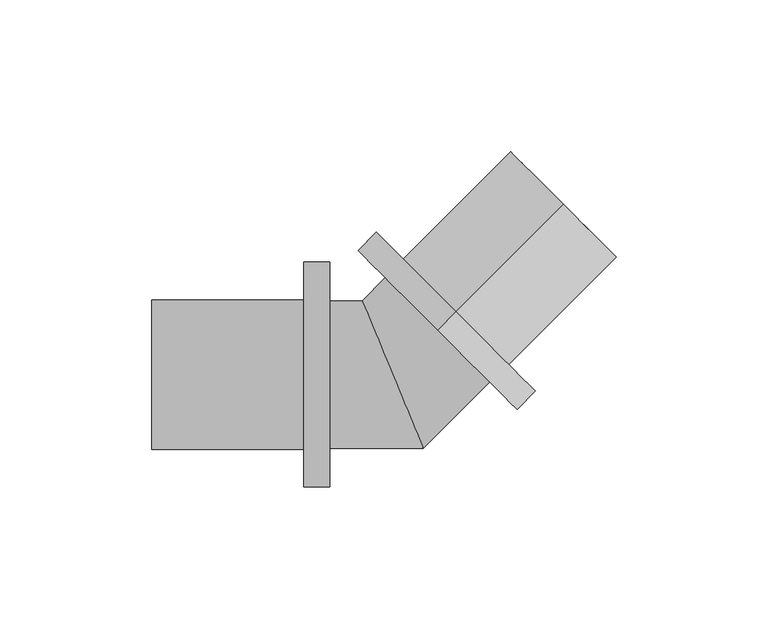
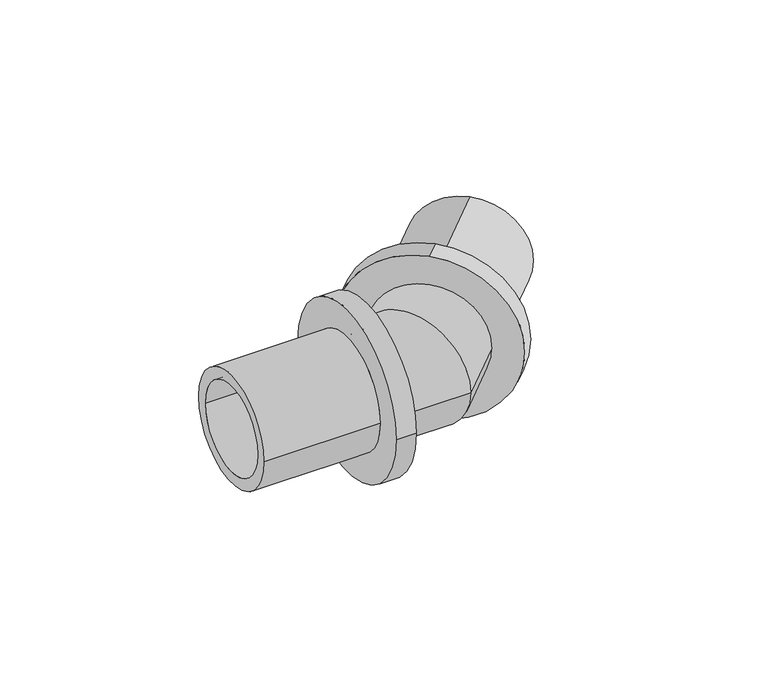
"""IFC4 building model written with IfcOpenShell, lengths in millimetres: pipe fitting geometry, RAUTITAN_Corner_LX : RTI LX C DN."""

from ifc_helpers import new_model, si_unit, frame, origin, place, context, project, spatial, polyline, circle_curve, ellipse_curve, source, transform, mapped, element, save
from ifc_brep_helpers import plane_surface, cylinder_surface, revolved_surface, advanced_brep


def pipe_fitting_77dd6fd6(model_context):
    return source(origin(), model_context, "Body", "AdvancedBrep", [
        advanced_brep(
        [(20.7182287, 20.7182287, 37.0), (20.7182287, 20.7182287, -37.0), (14.707821, 14.707821, -37.0), (14.707821, 14.707821, 37.0), (56.0735677, 56.0735677, 24.6), (56.0735677, 56.0735677, -24.6), (20.7182287, 20.7182287, -24.6), (20.7182287, 20.7182287, 24.6), (14.707821, 14.707821, 19.5), (14.707821, 14.707821, -19.5), (56.0735677, 56.0735677, -19.5), (56.0735677, 56.0735677, 19.5)],
        [
            (0, 1, circle_curve(frame((20.7182287, 20.7182287, 0.0), z_axis=(-0.7071067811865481, -0.707106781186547, 0.0), x_axis=(0.0, 0.0, -1.0)), 37.0)),
            (1, 2),
            (2, 3, circle_curve(frame((14.707821, 14.707821, 0.0), z_axis=(0.7071067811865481, 0.707106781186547, 0.0), x_axis=(0.0, 0.0, -1.0)), 37.0)),
            (3, 0),
            (4, 5, circle_curve(frame((56.0735677, 56.0735677, 0.0), z_axis=(-0.7071067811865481, -0.707106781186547, 0.0), x_axis=(0.0, 0.0, -1.0)), 24.6)),
            (5, 6),
            (6, 7, circle_curve(frame((20.7182287, 20.7182287, 0.0), z_axis=(0.7071067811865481, 0.707106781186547, 0.0), x_axis=(0.0, 0.0, -1.0)), 24.6)),
            (7, 4),
            (8, 9, circle_curve(frame((14.707821, 14.707821, 0.0), z_axis=(-0.7071067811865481, -0.707106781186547, 0.0), x_axis=(0.0, 0.0, -1.0)), 19.5)),
            (9, 10),
            (10, 11, circle_curve(frame((56.0735677, 56.0735677, 0.0), z_axis=(0.7071067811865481, 0.707106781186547, 0.0), x_axis=(0.0, 0.0, -1.0)), 19.5)),
            (11, 8),
            (1, 0, circle_curve(frame((20.7182287, 20.7182287, 0.0), z_axis=(-0.7071067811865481, -0.707106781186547, 0.0), x_axis=(0.0, 0.0, 1.0)), 37.0)),
            (3, 2, circle_curve(frame((14.707821, 14.707821, 0.0), z_axis=(0.7071067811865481, 0.707106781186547, 0.0), x_axis=(0.0, 0.0, 1.0)), 37.0)),
            (6, 7, circle_curve(frame((20.7182287, 20.7182287, 0.0), z_axis=(-0.7071067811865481, -0.707106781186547, 0.0), x_axis=(0.0, 0.0, 1.0)), 24.6)),
            (5, 4, circle_curve(frame((56.0735677, 56.0735677, 0.0), z_axis=(-0.7071067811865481, -0.707106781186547, 0.0), x_axis=(0.0, 0.0, 1.0)), 24.6)),
            (10, 11, circle_curve(frame((56.0735677, 56.0735677, 0.0), z_axis=(-0.7071067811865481, -0.707106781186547, 0.0), x_axis=(0.0, 0.0, 1.0)), 19.5)),
            (9, 8, circle_curve(frame((14.707821, 14.707821, 0.0), z_axis=(-0.7071067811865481, -0.707106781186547, 0.0), x_axis=(0.0, 0.0, 1.0)), 19.5)),
        ],
        [
            cylinder_surface(frame((14.707821, 14.707821, 0.0), z_axis=(0.7071067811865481, 0.707106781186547, 0.0), x_axis=(0.0, 0.0, -1.0)), 37.0),
            cylinder_surface(frame((14.707821, 14.707821, 0.0), z_axis=(0.7071067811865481, 0.707106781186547, 0.0), x_axis=(0.0, 0.0, -1.0)), 24.6),
            revolved_surface(polyline([(56.07356770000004, 56.073567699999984, -19.5), (14.707821, 14.707821, -19.5)]), (14.707821, 14.707821, 0.0), (0.7071067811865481, 0.707106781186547, 0.0)),
            cylinder_surface(frame((14.707821, 14.707821, 0.0), z_axis=(0.7071067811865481, 0.707106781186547, 0.0), x_axis=(0.0, 0.0, 1.0)), 37.0),
            plane_surface(frame((20.7182287, 20.7182287, 0.0), z_axis=(0.7071067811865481, 0.707106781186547, 0.0), x_axis=(0.0, 0.0, 1.0))),
            cylinder_surface(frame((14.707821, 14.707821, 0.0), z_axis=(0.7071067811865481, 0.707106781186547, 0.0), x_axis=(0.0, 0.0, 1.0)), 24.6),
            plane_surface(frame((56.0735677, 56.0735677, 0.0), z_axis=(0.7071067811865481, 0.707106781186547, 0.0), x_axis=(0.0, 0.0, 1.0))),
            revolved_surface(polyline([(56.07356770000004, 56.073567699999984, 19.5), (14.707821, 14.707821, 19.5)]), (14.707821, 14.707821, 0.0), (0.7071067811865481, 0.707106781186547, 0.0)),
            plane_surface(frame((14.707821, 14.707821, 0.0), z_axis=(-0.7071067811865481, -0.707106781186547, 0.0), x_axis=(0.0, 0.0, 1.0))),
        ],
        [
            (0, [[1, 2, 3, 4]]),
            (1, [[5, 6, 7, 8]]),
            (2, [[9, 10, 11, 12]]),
            (3, [[13, -4, 14, -2]]),
            (4, [[-13, -1], [15, -7]]),
            (5, [[16, -8, -15, -6]]),
            (6, [[-16, -5], [17, -11]]),
            (7, [[18, -12, -17, -10]]),
            (8, [[-14, -3], [-18, -9]]),
        ],
    ),
        advanced_brep(
        [(-29.3, -37.0, 0.0), (-29.3, 37.0, 0.0), (-20.8, 37.0, 0.0), (-20.8, -37.0, 0.0), (-79.3, -24.6, 0.0), (-79.3, 24.6, 0.0), (-29.3, 24.6, 0.0), (-29.3, -24.6, 0.0), (-20.8, -19.5, 0.0), (-20.8, 19.5, 0.0), (-79.3, 19.5, 0.0), (-79.3, -19.5, 0.0)],
        [
            (0, 1, circle_curve(frame((-29.3, 0.0, 0.0), z_axis=(1.0, 0.0, 0.0), x_axis=(0.0, 1.0, 0.0)), 37.0)),
            (1, 2),
            (2, 3, circle_curve(frame((-20.8, 0.0, 0.0), z_axis=(-1.0, 0.0, 0.0), x_axis=(0.0, 1.0, 0.0)), 37.0)),
            (3, 0),
            (4, 5, circle_curve(frame((-79.3, 0.0, 0.0), z_axis=(1.0, 0.0, 0.0), x_axis=(0.0, 1.0, 0.0)), 24.6)),
            (5, 6),
            (6, 7, circle_curve(frame((-29.3, 0.0, 0.0), z_axis=(-1.0, 0.0, 0.0), x_axis=(0.0, 1.0, 0.0)), 24.6)),
            (7, 4),
            (8, 9, circle_curve(frame((-20.8, 0.0, 0.0), z_axis=(1.0, 0.0, 0.0), x_axis=(0.0, 1.0, 0.0)), 19.5)),
            (9, 10),
            (10, 11, circle_curve(frame((-79.3, 0.0, 0.0), z_axis=(-1.0, 0.0, 0.0), x_axis=(0.0, 1.0, 0.0)), 19.5)),
            (11, 8),
            (1, 0, circle_curve(frame((-29.3, 0.0, 0.0), z_axis=(1.0, 0.0, 0.0), x_axis=(0.0, -1.0, 0.0)), 37.0)),
            (3, 2, circle_curve(frame((-20.8, 0.0, 0.0), z_axis=(-1.0, 0.0, 0.0), x_axis=(0.0, -1.0, 0.0)), 37.0)),
            (6, 7, circle_curve(frame((-29.3, 0.0, 0.0), z_axis=(1.0, 0.0, 0.0), x_axis=(0.0, -1.0, 0.0)), 24.6)),
            (5, 4, circle_curve(frame((-79.3, 0.0, 0.0), z_axis=(1.0, 0.0, 0.0), x_axis=(0.0, -1.0, 0.0)), 24.6)),
            (10, 11, circle_curve(frame((-79.3, 0.0, 0.0), z_axis=(1.0, 0.0, 0.0), x_axis=(0.0, -1.0, 0.0)), 19.5)),
            (9, 8, circle_curve(frame((-20.8, 0.0, 0.0), z_axis=(1.0, 0.0, 0.0), x_axis=(0.0, -1.0, 0.0)), 19.5)),
        ],
        [
            cylinder_surface(frame((-20.8, 0.0, 0.0), z_axis=(-1.0, 0.0, 0.0), x_axis=(0.0, 1.0, 0.0)), 37.0),
            cylinder_surface(frame((-20.8, 0.0, 0.0), z_axis=(-1.0, 0.0, 0.0), x_axis=(0.0, 1.0, 0.0)), 24.6),
            revolved_surface(polyline([(-79.3, 19.5, 0.0), (-20.8, 19.5, 0.0)]), (-20.8, 0.0, 0.0), (-1.0, 0.0, 0.0)),
            cylinder_surface(frame((-20.8, 0.0, 0.0), z_axis=(-1.0, 0.0, 0.0), x_axis=(0.0, -1.0, 0.0)), 37.0),
            plane_surface(frame((-29.3, 0.0, 0.0), z_axis=(-1.0, 0.0, 0.0), x_axis=(0.0, -1.0, 0.0))),
            cylinder_surface(frame((-20.8, 0.0, 0.0), z_axis=(-1.0, 0.0, 0.0), x_axis=(0.0, -1.0, 0.0)), 24.6),
            plane_surface(frame((-79.3, 0.0, 0.0), z_axis=(-1.0, 0.0, 0.0), x_axis=(0.0, -1.0, 0.0))),
            revolved_surface(polyline([(-79.3, -19.5, 0.0), (-20.8, -19.5, 0.0)]), (-20.8, 0.0, 0.0), (-1.0, 0.0, 0.0)),
            plane_surface(frame((-20.8, 0.0, 0.0), z_axis=(1.0, 0.0, 0.0), x_axis=(0.0, -1.0, 0.0))),
        ],
        [
            (0, [[1, 2, 3, 4]]),
            (1, [[5, 6, 7, 8]]),
            (2, [[9, 10, 11, 12]]),
            (3, [[13, -4, 14, -2]]),
            (4, [[-13, -1], [15, -7]]),
            (5, [[16, -8, -15, -6]]),
            (6, [[-16, -5], [17, -11]]),
            (7, [[18, -12, -17, -10]]),
            (8, [[-14, -3], [-18, -9]]),
        ],
    ),
        advanced_brep(
        [(-20.8, -24.3, 0.0), (-20.8, 24.3, 0.0), (-20.8, -19.5, 0.0), (-20.8, 19.5, 0.0), (-8.0771645, 19.5, 0.0), (8.0771645, -19.5, 0.0), (31.8905158, -2.4748737, 0.0), (-2.4748737, 31.8905158, 0.0), (28.4964033, 0.9192388, 0.0), (0.9192388, 28.4964033, 0.0), (10.0653896, -24.3, 0.0), (-10.0653896, 24.3, 0.0)],
        [
            (0, 1, circle_curve(frame((-20.8, 0.0, 0.0), z_axis=(-1.0, 0.0, 0.0), x_axis=(0.0, 1.0, 0.0)), 24.3)),
            (1, 0, circle_curve(frame((-20.8, 0.0, 0.0), z_axis=(-1.0, 0.0, 0.0), x_axis=(0.0, 1.0, 0.0)), 24.3)),
            (2, 3, circle_curve(frame((-20.8, 0.0, 0.0), z_axis=(1.0, 0.0, 0.0), x_axis=(0.0, 1.0, 0.0)), 19.5)),
            (3, 2, circle_curve(frame((-20.8, 0.0, 0.0), z_axis=(1.0, 0.0, 0.0), x_axis=(0.0, 1.0, 0.0)), 19.5)),
            (3, 4),
            (4, 5, ellipse_curve(frame((0.0, 0.0, 0.0), z_axis=(0.9238795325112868, 0.3826834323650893, 0.0), x_axis=(0.3826834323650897, -0.9238795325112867, 0.0)), 21.1066479, 19.5)),
            (5, 2),
            (5, 4, ellipse_curve(frame((0.0, 0.0, 0.0), z_axis=(0.9238795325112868, 0.3826834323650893, 0.0), x_axis=(0.3826834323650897, -0.9238795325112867, 0.0)), 21.1066479, 19.5)),
            (6, 7, circle_curve(frame((14.707821, 14.707821, 0.0), z_axis=(0.7071067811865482, 0.7071067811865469, 0.0), x_axis=(-0.7071067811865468, 0.7071067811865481, 0.0)), 24.3)),
            (7, 6, circle_curve(frame((14.707821, 14.707821, 0.0), z_axis=(0.7071067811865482, 0.7071067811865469, 0.0), x_axis=(-0.7071067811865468, 0.7071067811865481, 0.0)), 24.3)),
            (8, 9, circle_curve(frame((14.707821, 14.707821, 0.0), z_axis=(-0.7071067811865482, -0.7071067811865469, 0.0), x_axis=(-0.7071067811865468, 0.7071067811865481, 0.0)), 19.5)),
            (9, 8, circle_curve(frame((14.707821, 14.707821, 0.0), z_axis=(-0.7071067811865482, -0.7071067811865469, 0.0), x_axis=(-0.7071067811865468, 0.7071067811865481, 0.0)), 19.5)),
            (4, 9),
            (8, 5),
            (0, 10),
            (10, 11, ellipse_curve(frame((0.0, 0.0, 0.0), z_axis=(-0.9238795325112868, -0.3826834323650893, 0.0), x_axis=(-0.3826834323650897, 0.9238795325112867, 0.0)), 26.3021305, 24.3)),
            (11, 1),
            (11, 10, ellipse_curve(frame((0.0, 0.0, 0.0), z_axis=(-0.9238795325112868, -0.3826834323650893, 0.0), x_axis=(-0.3826834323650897, 0.9238795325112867, 0.0)), 26.3021305, 24.3)),
            (10, 6),
            (7, 11),
        ],
        [
            plane_surface(frame((-20.8, 0.0, 0.0), z_axis=(-1.0, 0.0, 0.0), x_axis=(0.0, 0.0, 1.0))),
            revolved_surface(polyline([(8.077164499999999, 19.5, 0.0), (-20.8, 19.5, 0.0)]), (-20.8, 0.0, 0.0), (1.0, 0.0, 0.0)),
            plane_surface(frame((14.707821, 14.707821, 0.0), z_axis=(0.7071067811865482, 0.7071067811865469, 0.0), x_axis=(0.0, 0.0, 1.0))),
            revolved_surface(polyline([(0.9192388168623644, 28.49640328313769, 0.0), (-19.499999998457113, 8.077164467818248, 0.0)]), (0.0, 0.0, 0.0), (0.7071067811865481, 0.7071067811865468, 0.0)),
            cylinder_surface(frame((-20.8, 0.0, 0.0), z_axis=(-1.0, 0.0, 0.0), x_axis=(0.0, 1.0, 0.0)), 24.3),
            cylinder_surface(frame((0.0, 0.0, 0.0), z_axis=(-0.7071067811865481, -0.7071067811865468, 0.0), x_axis=(-0.7071067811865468, 0.7071067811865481, 0.0)), 24.3),
        ],
        [
            (0, [[1, 2], [3, 4]]),
            (1, [[-4, 5, 6, 7]]),
            (1, [[-3, -7, 8, -5]]),
            (2, [[9, 10], [11, 12]]),
            (3, [[-6, 13, -11, 14]]),
            (3, [[-8, -14, -12, -13]]),
            (4, [[-1, 15, 16, 17]]),
            (4, [[-2, -17, 18, -15]]),
            (5, [[-16, 19, -10, 20]]),
            (5, [[-18, -20, -9, -19]]),
        ],
    ),
    ])


if __name__ == "__main__":
    model = new_model("IFC4")
    model_context = context("Model", 3, world=origin())
    ifc_project = project(units=[si_unit("LENGTHUNIT", "METRE", prefix="MILLI")], contexts=[model_context])
    site = spatial("IfcSite", under=ifc_project)
    building = spatial("IfcBuilding", under=site)
    placement = place(None, origin())
    pipe_fitting_shape = pipe_fitting_77dd6fd6(model_context)
    element("IfcPipeFitting", 1, ObjectType="RAUTITAN_Corner_LX : RTI LX C DN", at=placement, inside=building, context=model_context, shape_type="MappedRepresentation", body=[
        mapped(pipe_fitting_shape, transform((0.0, 0.0, 0.0), x_axis=(1.0, 0.0, 0.0), y_axis=(0.0, 1.0, 0.0), z_axis=(0.0, 0.0, 1.0))),
    ])
    save(model, "model.ifc")
